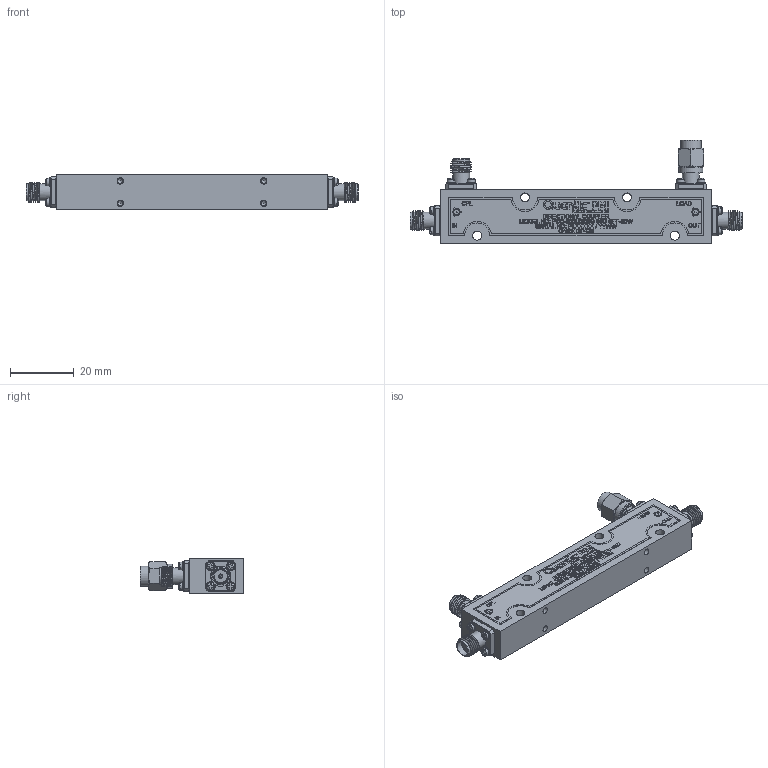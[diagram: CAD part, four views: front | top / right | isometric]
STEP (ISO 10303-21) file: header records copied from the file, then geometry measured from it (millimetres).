
FILE_DESCRIPTION (( 'STEP AP214' ), '1' );
FILE_NAME ('PDC-800M2D5G-30C-SFF-50W.STEP', '2024-05-01T20:41:53', ( '' ), ( '' ), 'SwSTEP 2.0', 'SolidWorks 2023', '' );
FILE_SCHEMA (( 'AUTOMOTIVE_DESIGN' ));
Length unit declared in the file: inch
Products named in the file (1): PDC-800M2D5G-30C-SFF-50W
Bounding box: 104.14 x 32.38 x 11.1 mm (x, y, z)
Volume: 17416 mm3; surface area: 10792.9 mm2
Topology: 39 solids, 39 shells, 1059 faces, 3512 edges, 2741 vertices
Faces by surface type: plane 569, cylinder 237, torus 115, sphere 56, cone 41, bspline 41
Full cylindrical faces by diameter (mm): 0.381 x4, 0.457 x4, 0.711 x4, 0.914 x1, 1.016 x4, 1.27 x4, 1.524 x16, 1.6 x4, 1.702 x16, 2 x4, 2.438 x16, 2.794 x4, 3.302 x4, 4.191 x8, 4.572 x1, 4.597 x4, 5.283 x13, 6.35 x1, 6.604 x1, 7.493 x1
Entity records: 62155 total; most frequent: CARTESIAN_POINT 18666, ORIENTED_EDGE 6386, DIRECTION 5183, EDGE_CURVE 3193, VERTEX_POINT 2693, AXIS2_PLACEMENT_3D 1772, LINE 1639, VECTOR 1639
